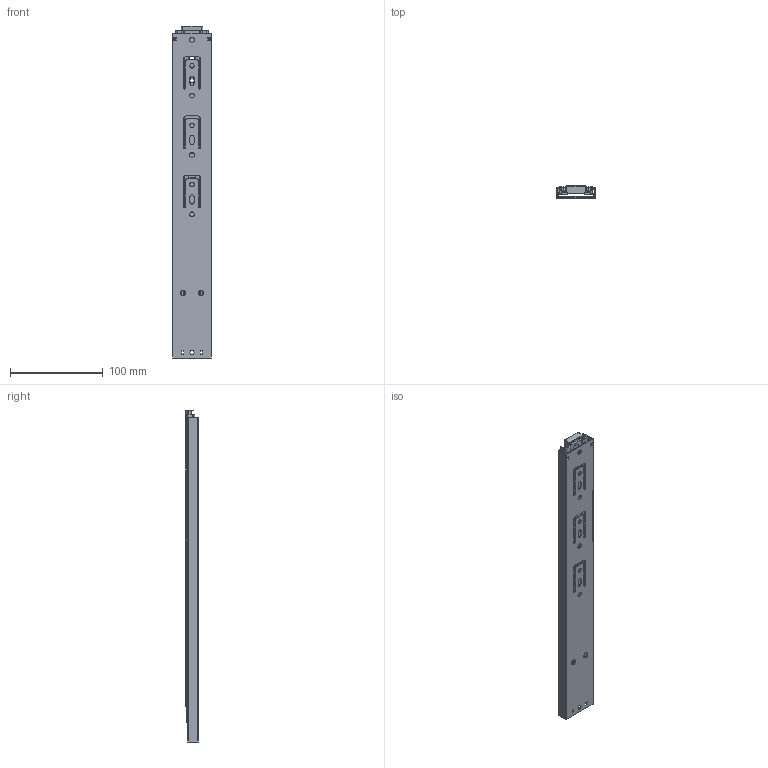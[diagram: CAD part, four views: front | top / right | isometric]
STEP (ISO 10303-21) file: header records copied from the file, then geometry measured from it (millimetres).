
FILE_DESCRIPTION(/* description */ (''),/* implementation_level */ '2;1');
FILE_NAME(/* name */ 'C:\Users\dmitruk\Documents\WORK\\X2\041D0410041F042004100412041B042F042E042904180415\X0\\Шариковые\Push to open\39197-350.stp',/* time_stamp */ '2020-07-27T14:01:20+03:00',/* author */ ('dmitruk'),/* organization */ (''),/* preprocessor_version */ 'ST-DEVELOPER v16.5',/* originating_system */ 'Autodesk Inventor 2017',/* authorisation */ '');
FILE_SCHEMA (('AUTOMOTIVE_DESIGN { 1 0 10303 214 3 1 1 }'));
Length unit declared in the file: millimetre
Products named in the file (5): 39197-350; 8D; 39197_12; нш300_3; 39197_2
Assembly tree (4 placements, depth 2):
  39197-350
    8D
    39197_12
    нш300_3
    39197_2
Bounding box: 42 x 13 x 358 mm (x, y, z)
Volume: 54794 mm3; surface area: 105947.2 mm2
Topology: 4 solids, 4 shells, 581 faces, 1670 edges, 1095 vertices
Faces by surface type: plane 333, cylinder 216, sphere 32
Full cylindrical faces by diameter (mm): 4.5 x1, 4.8 x6, 5 x4, 6 x2, 8 x1
Entity records: 19498 total; most frequent: CARTESIAN_POINT 3509, DIRECTION 3331, ORIENTED_EDGE 3312, EDGE_CURVE 1656, LINE 1125, VECTOR 1125, AXIS2_PLACEMENT_3D 1103, VERTEX_POINT 1095
